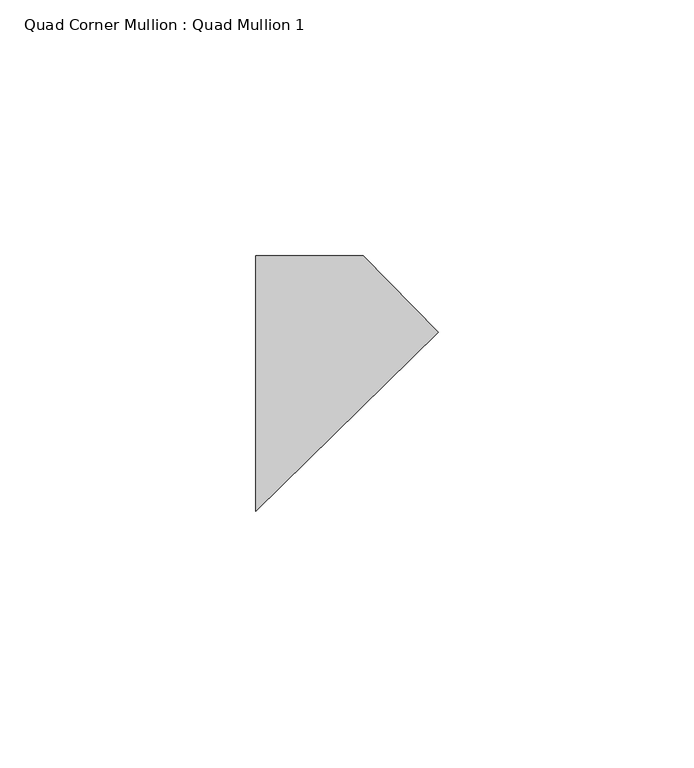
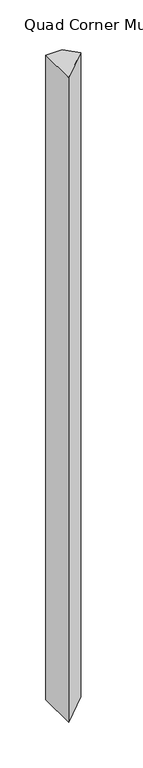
"""IFC4 building model written with IfcOpenShell, lengths in millimetres: member geometry, Quad Corner Mullion : Quad Mullion 1."""

from ifc_helpers import new_model, si_unit, frame, origin, place, context, project, spatial, polyline, outline, extrude, source, transform, mapped, element, save


def quad_corner_mullion_quad_mullion_1_a58fbf5a(model_context):
    return source(origin(), model_context, "Body", "SweptSolid", [
        extrude(outline(polyline([(25.1823208, 10.0399087), (-10.4856592, -25.0), (-10.4856592, 25.0), (10.4856592, 25.0), (25.1823208, 10.0399087)])), frame((0.0, 0.0, -860.0), z_axis=(0.0, 0.0, 1.0), x_axis=(1.0, 0.0, 0.0)), (0.0, 0.0, 1.0), 860.0),
    ])


if __name__ == "__main__":
    model = new_model("IFC4")
    model_context = context("Model", 3, world=origin())
    ifc_project = project(units=[si_unit("LENGTHUNIT", "METRE", prefix="MILLI")], contexts=[model_context])
    site = spatial("IfcSite", under=ifc_project)
    building = spatial("IfcBuilding", under=site)
    placement = place(None, origin())
    quad_corner_mullion_quad_mullion_1_shape = quad_corner_mullion_quad_mullion_1_a58fbf5a(model_context)
    element("IfcMember", 1, ObjectType="Quad Corner Mullion : Quad Mullion 1", at=placement, inside=building, context=model_context, shape_type="MappedRepresentation", body=[
        mapped(quad_corner_mullion_quad_mullion_1_shape, transform((0.0, 0.0, 0.0), x_axis=(1.0, 0.0, 0.0), y_axis=(0.0, 1.0, 0.0), z_axis=(0.0, 0.0, 1.0))),
    ])
    save(model, "model.ifc")
